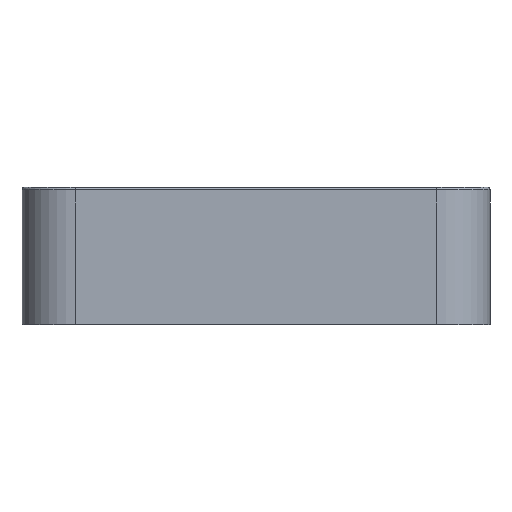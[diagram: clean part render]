
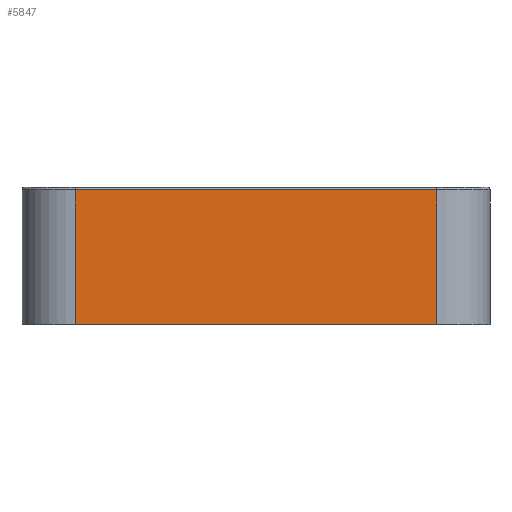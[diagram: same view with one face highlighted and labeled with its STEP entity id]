
A CAD part, left-side view. The second image highlights one B-rep face of the part: STEP entity #5847.
In plain terms, the highlighted planar face has unit normal (-1, 0, 0).
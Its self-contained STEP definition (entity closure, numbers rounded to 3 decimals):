
#713=FACE_OUTER_BOUND('',#1119,.T.);
#1119=EDGE_LOOP('',(#5281,#5282,#5283,#5284));
#1328=LINE('',#8484,#1940);
#1342=LINE('',#8535,#1954);
#1722=LINE('',#9577,#2334);
#1742=LINE('',#9646,#2354);
#1940=VECTOR('',#6756,10.);
#1954=VECTOR('',#6814,10.);
#2334=VECTOR('',#7908,10.);
#2354=VECTOR('',#7994,10.);
#2546=VERTEX_POINT('',#8477);
#2548=VERTEX_POINT('',#8482);
#2563=VERTEX_POINT('',#8534);
#2868=VERTEX_POINT('',#9576);
#3123=EDGE_CURVE('',#2548,#2546,#1328,.T.);
#3149=EDGE_CURVE('',#2546,#2563,#1342,.T.);
#3659=EDGE_CURVE('',#2868,#2563,#1722,.T.);
#3694=EDGE_CURVE('',#2868,#2548,#1742,.T.);
#5281=ORIENTED_EDGE('',*,*,#3123,.F.);
#5282=ORIENTED_EDGE('',*,*,#3694,.F.);
#5283=ORIENTED_EDGE('',*,*,#3659,.T.);
#5284=ORIENTED_EDGE('',*,*,#3149,.F.);
#5541=PLANE('',#6369);
#5847=ADVANCED_FACE('',(#713),#5541,.T.);
#6369=AXIS2_PLACEMENT_3D('',#9645,#7992,#7993);
#6756=DIRECTION('',(0.,-1.,0.));
#6814=DIRECTION('',(0.,0.,-1.));
#7908=DIRECTION('',(0.,-1.,0.));
#7992=DIRECTION('center_axis',(-1.,0.,0.));
#7993=DIRECTION('ref_axis',(0.,-1.,0.));
#7994=DIRECTION('',(0.,0.,1.));
#8477=CARTESIAN_POINT('',(-115.,-81.,63.8));
#8482=CARTESIAN_POINT('',(-115.,81.,63.8));
#8484=CARTESIAN_POINT('',(-115.,52.5,63.8));
#8534=CARTESIAN_POINT('',(-115.,-81.,3.3));
#8535=CARTESIAN_POINT('',(-115.,-81.,3.3));
#9576=CARTESIAN_POINT('',(-115.,81.,3.3));
#9577=CARTESIAN_POINT('',(-115.,105.,3.3));
#9645=CARTESIAN_POINT('Origin',(-115.,105.,3.3));
#9646=CARTESIAN_POINT('',(-115.,81.,3.3));
